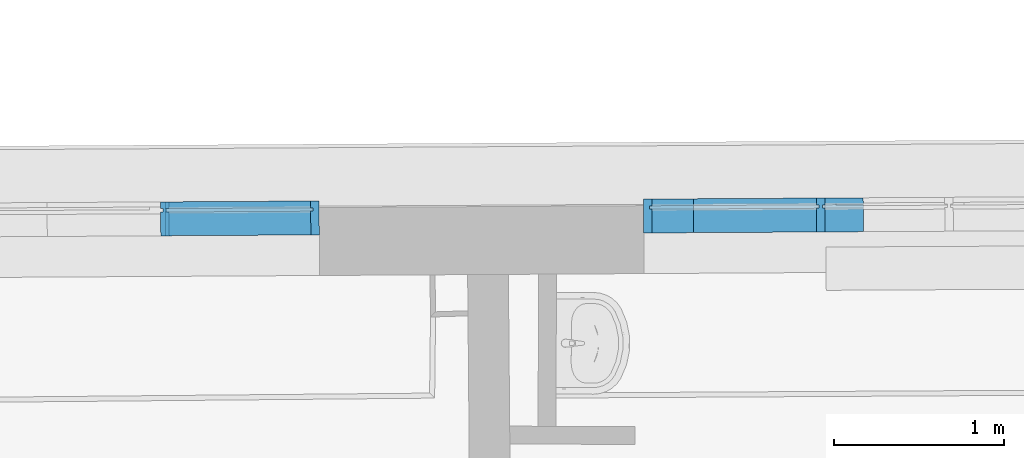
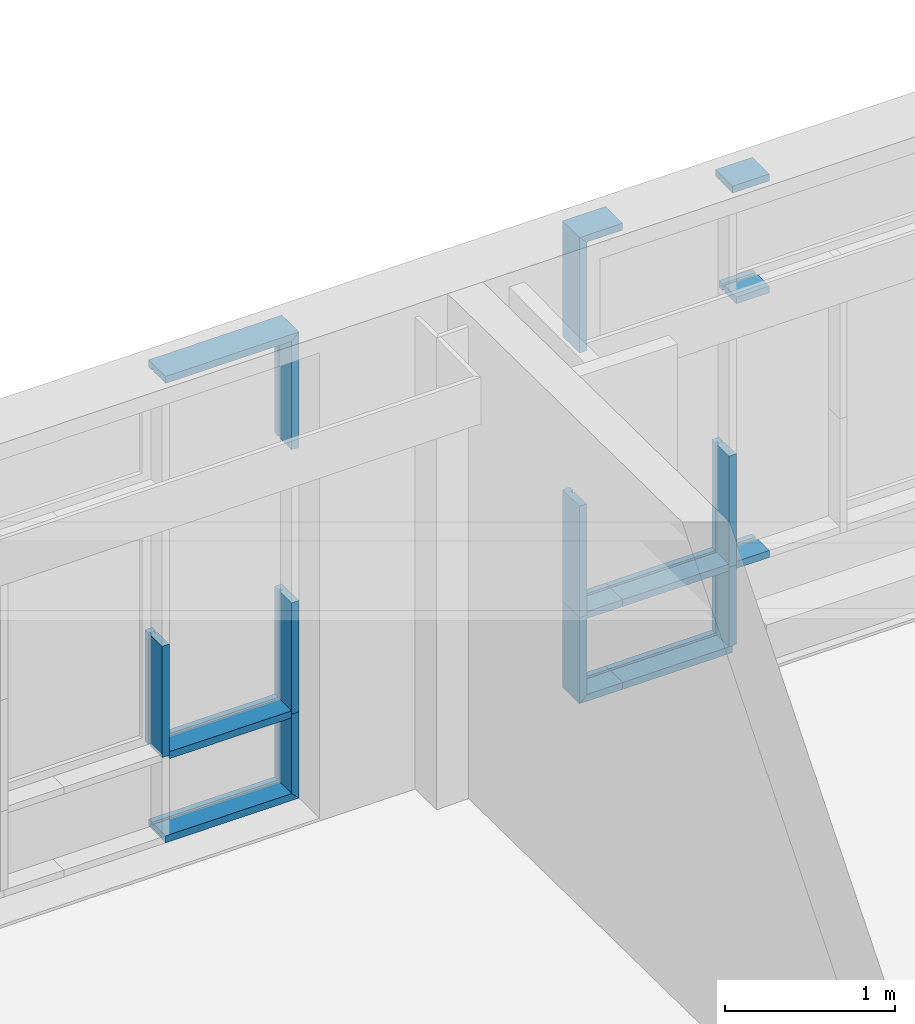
# One storey, part 128 of 158: 20 building element parts, 2 elements without a shape of their own.
"""IFC2X3 building model written with IfcOpenShell, lengths in metres."""

from ifc_helpers import new_model, entity, si_unit, converted_unit, derived_unit, money_unit, direction, frame, origin_with_axes, place, context, subcontext, project, spatial, faceted_brep, material, type_object, element, aggregate, save


model = new_model("IFC2X3")

# Units and contexts
model_context = context("Model", 3, precision=1e-05, world=origin_with_axes(), true_north=direction((0.0, 1.0)))
body_context = subcontext(model_context, "Body", "Model", "MODEL_VIEW")
ifc_project = project(units=[si_unit("LENGTHUNIT", "METRE"), si_unit("AREAUNIT", "SQUARE_METRE"), si_unit("VOLUMEUNIT", "CUBIC_METRE"), converted_unit("PLANEANGLEUNIT", "DEGREE", entity("IfcPlaneAngleMeasure", 0.0174532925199), si_unit("PLANEANGLEUNIT", "RADIAN"), dimensions=[0, 0, 0, 0, 0, 0, 0]), money_unit("EUR"), converted_unit("TIMEUNIT", "Year", entity("IfcTimeMeasure", 31556926.0), si_unit("TIMEUNIT", "SECOND"), dimensions=[0, 0, 1, 0, 0, 0, 0]), si_unit("MASSUNIT", "GRAM", prefix="KILO"), si_unit("THERMODYNAMICTEMPERATUREUNIT", "DEGREE_CELSIUS"), si_unit("LUMINOUSINTENSITYUNIT", "LUMEN"), si_unit("ENERGYUNIT", "JOULE", prefix="MEGA"), derived_unit("THERMALCONDUCTANCEUNIT", [(si_unit("POWERUNIT", "WATT"), 1), (si_unit("LENGTHUNIT", "METRE"), -1), (si_unit("THERMODYNAMICTEMPERATUREUNIT", "KELVIN"), -1)]), derived_unit("SPECIFICHEATCAPACITYUNIT", [(si_unit("ENERGYUNIT", "JOULE"), 1), (si_unit("MASSUNIT", "GRAM", prefix="KILO"), -1), (si_unit("THERMODYNAMICTEMPERATUREUNIT", "KELVIN"), -1)]), derived_unit("MASSDENSITYUNIT", [(si_unit("MASSUNIT", "GRAM", prefix="KILO"), 1), (si_unit("VOLUMEUNIT", "CUBIC_METRE"), -1)])], contexts=[model_context])

# Site, building, storey
site_placement = place(None, origin_with_axes())
site = spatial("IfcSite", under=ifc_project, at=site_placement, Name="Gelände", CompositionType="ELEMENT")
building_placement = place(site_placement, origin_with_axes())
building = spatial("IfcBuilding", under=site, at=building_placement, Name="Gebäude", CompositionType="ELEMENT")
storey_placement = place(building_placement, origin_with_axes())
storey = spatial("IfcBuildingStorey", under=building, at=storey_placement, Name="ERDGESCHOSS", CompositionType="ELEMENT", Elevation=0.0)

# Proxy, building element parts
building_element_proxy_type = type_object("IfcBuildingElementProxyType", Name="Fassadentyp", PredefinedType="NOTDEFINED")
proxy_1_placement = place(storey_placement, frame((-22.8016333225, 53.9701805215, 1.34043904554), z_axis=(0.0, 0.0, 1.0), x_axis=(1.0, 0.0, 0.0)))
proxy_1 = element("IfcBuildingElementProxy", 1, at=proxy_1_placement, inside=storey, type_object=building_element_proxy_type, Name="Fassade-002")
ifc_material = material(Name="53_Metall, Aluminium")
building_element_part_1_placement = place(proxy_1_placement, origin_with_axes())
building_element_part_1 = element("IfcBuildingElementPart", 2, at=building_element_part_1_placement, material=ifc_material, Name="53_Metall, Aluminium", context=body_context, shape_type="Brep", body=[
    faceted_brep([(-2.15533489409, -0.0225694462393, 0.620000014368), (-2.17033463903, -0.0226569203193, 0.620000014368), (-2.16951821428, -0.162654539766, 0.620000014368), (-2.11951906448, -0.162362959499, 0.620000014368), (-2.12033548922, -0.0223653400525, 0.620000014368), (-2.13533523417, -0.0224528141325, 0.620000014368), (-2.13545186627, -0.00245315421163, 0.620000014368), (-2.12045212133, -0.00236568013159, 0.620000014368), (-2.12068538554, 0.0376336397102, 0.620000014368), (-2.17068453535, 0.0373420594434, 0.620000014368), (-2.17045127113, -0.00265726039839, 0.620000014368), (-2.15545152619, -0.00256978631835, 0.620000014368), (-2.15533489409, -0.0225694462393, 0.0499999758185), (-2.17033463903, -0.0226569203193, 0.0499999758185), (-2.16951821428, -0.162654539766, 0.0499999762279), (-2.11951906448, -0.162362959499, 0.0499999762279), (-2.12033548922, -0.0223653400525, 0.0499999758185), (-2.13533523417, -0.0224528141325, 0.0499999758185), (-2.13545186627, -0.00245315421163, 0.04999997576), (-2.12045212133, -0.00236568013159, 0.04999997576), (-2.12068538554, 0.0376336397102, 0.0499999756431), (-2.17068453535, 0.0373420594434, 0.0499999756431), (-2.17045127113, -0.00265726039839, 0.04999997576), (-2.15545152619, -0.00256978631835, 0.04999997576)], [[[0, 1, 2, 3, 4, 5, 6, 7, 8, 9, 10, 11]], [[1, 0, 12, 13]], [[1, 13, 14, 2]], [[2, 14, 15, 3]], [[4, 3, 15, 16]], [[4, 16, 17, 5]], [[5, 17, 18, 6]], [[7, 6, 18, 19]], [[19, 20, 8, 7]], [[8, 20, 21, 9]], [[22, 10, 9, 21]], [[11, 10, 22, 23]], [[0, 11, 23, 12]], [[23, 22, 21, 20, 19, 18, 17, 16, 15, 14, 13, 12]]]),
])
building_element_part_2_placement = place(proxy_1_placement, origin_with_axes())
building_element_part_2 = element("IfcBuildingElementPart", 3, at=building_element_part_2_placement, material=ifc_material, Name="53_Metall, Aluminium", context=body_context, shape_type="Brep", body=[
    faceted_brep([(-2.12033547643, -0.0223653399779, 0.610000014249), (-2.12033547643, -0.0223653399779, 0.595000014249), (-2.11951904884, -0.162362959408, 0.595000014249), (-2.11951904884, -0.162362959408, 0.645000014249), (-2.12033547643, -0.0223653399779, 0.645000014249), (-2.12033547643, -0.0223653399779, 0.630000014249), (-2.12045210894, -0.00236568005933, 0.630000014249), (-2.12045210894, -0.00236568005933, 0.645000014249), (-2.12068537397, 0.0376336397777, 0.645000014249), (-2.12068537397, 0.0376336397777, 0.595000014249), (-2.12045210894, -0.00236568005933, 0.595000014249), (-2.12045210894, -0.00236568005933, 0.610000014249), (-1.89498624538, -0.0210511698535, 0.610000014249), (-1.89498624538, -0.0210511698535, 0.595000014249), (-1.89416982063, -0.1610487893, 0.595000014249), (-1.89416982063, -0.1610487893, 0.645000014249), (-1.89498624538, -0.0210511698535, 0.645000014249), (-1.89498624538, -0.0210511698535, 0.630000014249), (-1.89510287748, -0.00105150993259, 0.630000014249), (-1.89510287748, -0.00105150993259, 0.645000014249), (-1.8953361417, 0.0389478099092, 0.645000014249), (-1.8953361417, 0.0389478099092, 0.595000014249), (-1.89510287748, -0.00105150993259, 0.595000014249), (-1.89510287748, -0.00105150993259, 0.610000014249)], [[[0, 1, 2, 3, 4, 5, 6, 7, 8, 9, 10, 11]], [[1, 0, 12, 13]], [[1, 13, 14, 2]], [[3, 2, 14, 15]], [[4, 3, 15, 16]], [[4, 16, 17, 5]], [[5, 17, 18, 6]], [[7, 6, 18, 19]], [[19, 20, 8, 7]], [[9, 8, 20, 21]], [[22, 10, 9, 21]], [[11, 10, 22, 23]], [[0, 11, 23, 12]], [[23, 22, 21, 20, 19, 18, 17, 16, 15, 14, 13, 12]]]),
])
building_element_part_3_placement = place(proxy_1_placement, origin_with_axes())
building_element_part_3 = element("IfcBuildingElementPart", 4, at=building_element_part_3_placement, material=ifc_material, Name="53_Metall, Aluminium", context=body_context, shape_type="Brep", body=[
    faceted_brep([(-2.89496924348, -0.0268827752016, 0.0349999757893), (-2.89508587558, -0.00688311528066, 0.0349999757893), (-2.89508587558, -0.00688311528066, 0.0499999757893), (-2.8953191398, 0.0331162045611, 0.0499999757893), (-2.8953191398, 0.0331162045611, -2.42107287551e-08), (-2.89415281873, -0.166880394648, -2.42107287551e-08), (-2.89415281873, -0.166880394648, 0.0499999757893), (-2.89496924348, -0.0268827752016, 0.0499999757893), (-2.14533506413, -0.0225111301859, 0.0349999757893), (-2.14545169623, -0.00251147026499, 0.0349999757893), (-2.14545169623, -0.00251147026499, 0.0499999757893), (-2.14568496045, 0.0374878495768, 0.0499999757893), (-2.14568496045, 0.0374878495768, -2.42107287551e-08), (-2.14451863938, -0.162508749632, -2.42107287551e-08), (-2.14451863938, -0.162508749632, 0.0499999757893), (-2.14533506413, -0.0225111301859, 0.0499999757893)], [[[0, 1, 2, 3, 4, 5, 6, 7]], [[1, 0, 8, 9]], [[10, 2, 1, 9]], [[2, 10, 11, 3]], [[12, 4, 3, 11]], [[13, 5, 4, 12]], [[14, 6, 5, 13]], [[15, 7, 6, 14]], [[0, 7, 15, 8]], [[8, 15, 14, 13, 12, 11, 10, 9]]]),
])
building_element_part_4_placement = place(proxy_1_placement, origin_with_axes())
building_element_part_4 = element("IfcBuildingElementPart", 5, at=building_element_part_4_placement, material=ifc_material, Name="53_Metall, Aluminium", context=body_context, shape_type="Brep", body=[
    faceted_brep([(-3.15481999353, -0.0283981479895, 0.620000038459), (-3.15493662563, -0.00839848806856, 0.620000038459), (-3.13993688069, -0.00831101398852, 0.620000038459), (-3.14017014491, 0.0316883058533, 0.620000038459), (-3.19016929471, 0.0313967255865, 0.620000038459), (-3.18900297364, -0.168599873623, 0.620000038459), (-3.13900382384, -0.168308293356, 0.620000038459), (-3.13982024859, -0.0283106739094, 0.620000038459), (-3.15481999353, -0.0283981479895, 0.035), (-3.15493662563, -0.00839848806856, 0.035), (-3.13993688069, -0.00831101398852, 0.05), (-3.14017014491, 0.0316883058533, 0.05), (-3.19016929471, 0.0313967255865, 0.0), (-3.18900297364, -0.168599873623, 0.0), (-3.13900382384, -0.168308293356, 0.05), (-3.13982024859, -0.0283106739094, 0.05)], [[[0, 1, 2, 3, 4, 5, 6, 7]], [[1, 0, 8, 9]], [[10, 2, 1, 9]], [[2, 10, 11, 3]], [[4, 3, 11, 12]], [[5, 4, 12, 13]], [[6, 5, 13, 14]], [[15, 7, 6, 14]], [[0, 7, 15, 8]], [[8, 15, 14, 13, 12, 11, 10, 9]]]),
])
building_element_part_5_placement = place(proxy_1_placement, origin_with_axes())
building_element_part_5 = element("IfcBuildingElementPart", 6, at=building_element_part_5_placement, material=ifc_material, Name="53_Metall, Aluminium", context=body_context, shape_type="Brep", body=[
    faceted_brep([(-3.15481999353, -0.0283981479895, 3.31499988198), (-3.13982024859, -0.0283106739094, 3.29999988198), (-3.13900382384, -0.168308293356, 3.29999988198), (-3.18900297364, -0.168599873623, 3.34999988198), (-3.19016929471, 0.0313967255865, 3.34999988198), (-3.14017014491, 0.0316883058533, 3.29999988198), (-3.13993688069, -0.00831101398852, 3.29999988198), (-3.15493662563, -0.00839848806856, 3.31499988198), (-2.89496924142, -0.0268827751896, 3.31499988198), (-2.89496924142, -0.0268827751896, 3.29999988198), (-2.89415281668, -0.166880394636, 3.29999988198), (-2.89415281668, -0.166880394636, 3.34999988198), (-2.89531913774, 0.0331162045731, 3.34999988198), (-2.89531913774, 0.0331162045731, 3.29999988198), (-2.89508587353, -0.00688311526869, 3.29999988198), (-2.89508587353, -0.00688311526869, 3.31499988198)], [[[0, 1, 2, 3, 4, 5, 6, 7]], [[0, 8, 9, 1]], [[9, 10, 2, 1]], [[10, 11, 3, 2]], [[11, 12, 4, 3]], [[12, 13, 5, 4]], [[6, 5, 13, 14]], [[14, 15, 7, 6]], [[7, 15, 8, 0]], [[8, 15, 14, 13, 12, 11, 10, 9]]]),
])
building_element_part_6_placement = place(proxy_1_placement, origin_with_axes())
building_element_part_6 = element("IfcBuildingElementPart", 7, at=building_element_part_6_placement, material=ifc_material, Name="53_Metall, Aluminium", context=body_context, shape_type="Brep", body=[
    faceted_brep([(-2.15533488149, -0.0225694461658, 1.4200000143), (-2.17033462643, -0.0226569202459, 1.4200000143), (-2.16951820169, -0.162654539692, 1.4200000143), (-2.11951905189, -0.162362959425, 1.4200000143), (-2.12033547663, -0.0223653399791, 1.4200000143), (-2.13533522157, -0.0224528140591, 1.4200000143), (-2.13545185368, -0.00245315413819, 1.4200000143), (-2.12045210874, -0.00236568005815, 1.4200000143), (-2.12068537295, 0.0376336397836, 1.4200000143), (-2.17068452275, 0.0373420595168, 1.4200000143), (-2.17045125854, -0.00265726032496, 1.4200000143), (-2.1554515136, -0.00256978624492, 1.4200000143), (-2.15533488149, -0.0225694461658, 0.620000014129), (-2.17033462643, -0.0226569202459, 0.620000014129), (-2.16951820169, -0.162654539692, 0.620000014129), (-2.11951905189, -0.162362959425, 0.620000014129), (-2.12033547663, -0.0223653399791, 0.620000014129), (-2.13533522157, -0.0224528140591, 0.620000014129), (-2.13545185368, -0.00245315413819, 0.620000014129), (-2.12045210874, -0.00236568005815, 0.620000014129), (-2.12068537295, 0.0376336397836, 0.620000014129), (-2.17068452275, 0.0373420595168, 0.620000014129), (-2.17045125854, -0.00265726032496, 0.620000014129), (-2.1554515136, -0.00256978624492, 0.620000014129)], [[[0, 1, 2, 3, 4, 5, 6, 7, 8, 9, 10, 11]], [[1, 0, 12, 13]], [[1, 13, 14, 2]], [[3, 2, 14, 15]], [[4, 3, 15, 16]], [[4, 16, 17, 5]], [[5, 17, 18, 6]], [[7, 6, 18, 19]], [[19, 20, 8, 7]], [[9, 8, 20, 21]], [[22, 10, 9, 21]], [[11, 10, 22, 23]], [[0, 11, 23, 12]], [[23, 22, 21, 20, 19, 18, 17, 16, 15, 14, 13, 12]]]),
])
building_element_part_7_placement = place(proxy_1_placement, origin_with_axes())
building_element_part_7 = element("IfcBuildingElementPart", 8, at=building_element_part_7_placement, material=ifc_material, Name="53_Metall, Aluminium", context=body_context, shape_type="Brep", body=[
    faceted_brep([(-2.89496924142, -0.0268827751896, 0.610000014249), (-2.89496924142, -0.0268827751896, 0.595000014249), (-2.89415281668, -0.166880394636, 0.595000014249), (-2.89415281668, -0.166880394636, 0.645000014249), (-2.89496924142, -0.0268827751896, 0.645000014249), (-2.89496924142, -0.0268827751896, 0.630000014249), (-2.89508587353, -0.00688311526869, 0.630000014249), (-2.89508587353, -0.00688311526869, 0.645000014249), (-2.89531913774, 0.0331162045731, 0.645000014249), (-2.89531913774, 0.0331162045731, 0.595000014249), (-2.89508587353, -0.00688311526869, 0.595000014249), (-2.89508587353, -0.00688311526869, 0.610000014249), (-2.1703346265, -0.0226569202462, 0.610000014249), (-2.1703346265, -0.0226569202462, 0.595000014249), (-2.16951820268, -0.162654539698, 0.595000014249), (-2.16951820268, -0.162654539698, 0.645000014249), (-2.1703346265, -0.0226569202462, 0.645000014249), (-2.1703346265, -0.0226569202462, 0.630000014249), (-2.17045125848, -0.00265726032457, 0.630000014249), (-2.17045125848, -0.00265726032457, 0.645000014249), (-2.17068452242, 0.0373420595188, 0.645000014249), (-2.17068452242, 0.0373420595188, 0.595000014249), (-2.17045125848, -0.00265726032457, 0.595000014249), (-2.17045125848, -0.00265726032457, 0.610000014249)], [[[0, 1, 2, 3, 4, 5, 6, 7, 8, 9, 10, 11]], [[1, 0, 12, 13]], [[1, 13, 14, 2]], [[2, 14, 15, 3]], [[4, 3, 15, 16]], [[4, 16, 17, 5]], [[5, 17, 18, 6]], [[7, 6, 18, 19]], [[19, 20, 8, 7]], [[8, 20, 21, 9]], [[22, 10, 9, 21]], [[11, 10, 22, 23]], [[0, 11, 23, 12]], [[23, 22, 21, 20, 19, 18, 17, 16, 15, 14, 13, 12]]]),
])
building_element_part_8_placement = place(proxy_1_placement, origin_with_axes())
building_element_part_8 = element("IfcBuildingElementPart", 9, at=building_element_part_8_placement, material=ifc_material, Name="53_Metall, Aluminium", context=body_context, shape_type="Brep", body=[
    faceted_brep([(-3.13982024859, -0.0283106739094, 0.610000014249), (-3.13982024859, -0.0283106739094, 0.595000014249), (-3.13900382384, -0.168308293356, 0.595000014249), (-3.13900382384, -0.168308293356, 0.645000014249), (-3.13982024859, -0.0283106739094, 0.645000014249), (-3.13982024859, -0.0283106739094, 0.630000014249), (-3.13993688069, -0.00831101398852, 0.630000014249), (-3.13993688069, -0.00831101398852, 0.645000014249), (-3.14017014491, 0.0316883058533, 0.645000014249), (-3.14017014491, 0.0316883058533, 0.595000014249), (-3.13993688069, -0.00831101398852, 0.595000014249), (-3.13993688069, -0.00831101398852, 0.610000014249), (-2.89496924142, -0.0268827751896, 0.610000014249), (-2.89496924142, -0.0268827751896, 0.595000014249), (-2.89415281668, -0.166880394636, 0.595000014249), (-2.89415281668, -0.166880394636, 0.645000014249), (-2.89496924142, -0.0268827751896, 0.645000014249), (-2.89496924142, -0.0268827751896, 0.630000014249), (-2.89508587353, -0.00688311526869, 0.630000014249), (-2.89508587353, -0.00688311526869, 0.645000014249), (-2.89531913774, 0.0331162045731, 0.645000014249), (-2.89531913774, 0.0331162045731, 0.595000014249), (-2.89508587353, -0.00688311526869, 0.595000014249), (-2.89508587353, -0.00688311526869, 0.610000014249)], [[[0, 1, 2, 3, 4, 5, 6, 7, 8, 9, 10, 11]], [[1, 0, 12, 13]], [[1, 13, 14, 2]], [[3, 2, 14, 15]], [[4, 3, 15, 16]], [[4, 16, 17, 5]], [[5, 17, 18, 6]], [[7, 6, 18, 19]], [[19, 20, 8, 7]], [[9, 8, 20, 21]], [[22, 10, 9, 21]], [[11, 10, 22, 23]], [[0, 11, 23, 12]], [[23, 22, 21, 20, 19, 18, 17, 16, 15, 14, 13, 12]]]),
])
building_element_part_9_placement = place(proxy_1_placement, origin_with_axes())
building_element_part_9 = element("IfcBuildingElementPart", 10, at=building_element_part_9_placement, material=ifc_material, Name="53_Metall, Aluminium", context=body_context, shape_type="Brep", body=[
    faceted_brep([(-2.14533506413, -0.0225111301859, 3.31499988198), (-2.14533506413, -0.0225111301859, 3.29999988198), (-2.14451863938, -0.162508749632, 3.29999988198), (-2.14451863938, -0.162508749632, 3.34999988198), (-2.14568496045, 0.0374878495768, 3.34999988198), (-2.14568496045, 0.0374878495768, 3.29999988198), (-2.14545169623, -0.00251147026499, 3.29999988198), (-2.14545169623, -0.00251147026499, 3.31499988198), (-1.89498624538, -0.0210511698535, 3.31499988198), (-1.89498624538, -0.0210511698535, 3.29999988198), (-1.89416982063, -0.1610487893, 3.29999988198), (-1.89416982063, -0.1610487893, 3.34999988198), (-1.8953361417, 0.0389478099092, 3.34999988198), (-1.8953361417, 0.0389478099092, 3.29999988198), (-1.89510287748, -0.00105150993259, 3.29999988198), (-1.89510287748, -0.00105150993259, 3.31499988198)], [[[0, 1, 2, 3, 4, 5, 6, 7]], [[0, 8, 9, 1]], [[9, 10, 2, 1]], [[10, 11, 3, 2]], [[11, 12, 4, 3]], [[12, 13, 5, 4]], [[6, 5, 13, 14]], [[14, 15, 7, 6]], [[7, 15, 8, 0]], [[8, 15, 14, 13, 12, 11, 10, 9]]]),
])
building_element_part_10_placement = place(proxy_1_placement, origin_with_axes())
building_element_part_10 = element("IfcBuildingElementPart", 11, at=building_element_part_10_placement, material=ifc_material, Name="53_Metall, Aluminium", context=body_context, shape_type="Brep", body=[
    faceted_brep([(-3.15481999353, -0.0283981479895, 3.31499992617), (-3.15493662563, -0.00839848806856, 3.31499992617), (-3.13993688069, -0.00831101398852, 3.29999992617), (-3.14017014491, 0.0316883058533, 3.29999992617), (-3.19016929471, 0.0313967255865, 3.34999992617), (-3.18900297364, -0.168599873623, 3.34999992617), (-3.13900382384, -0.168308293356, 3.29999992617), (-3.13982024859, -0.0283106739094, 3.29999992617), (-3.15481999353, -0.0283981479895, 2.52000001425), (-3.15493662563, -0.00839848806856, 2.52000001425), (-3.13993688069, -0.00831101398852, 2.52000001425), (-3.14017014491, 0.0316883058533, 2.52000001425), (-3.19016929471, 0.0313967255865, 2.52000001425), (-3.18900297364, -0.168599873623, 2.52000001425), (-3.13900382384, -0.168308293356, 2.52000001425), (-3.13982024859, -0.0283106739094, 2.52000001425)], [[[0, 1, 2, 3, 4, 5, 6, 7]], [[1, 0, 8, 9]], [[10, 2, 1, 9]], [[2, 10, 11, 3]], [[12, 4, 3, 11]], [[13, 5, 4, 12]], [[14, 6, 5, 13]], [[15, 7, 6, 14]], [[0, 7, 15, 8]], [[8, 15, 14, 13, 12, 11, 10, 9]]]),
])
building_element_part_11_placement = place(proxy_1_placement, origin_with_axes())
building_element_part_11 = element("IfcBuildingElementPart", 12, at=building_element_part_11_placement, material=ifc_material, Name="53_Metall, Aluminium", context=body_context, shape_type="Brep", body=[
    faceted_brep([(-2.12033547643, -0.0223653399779, 2.51000001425), (-2.12033547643, -0.0223653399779, 2.49500001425), (-2.11951904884, -0.162362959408, 2.49500001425), (-2.11951904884, -0.162362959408, 2.54500001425), (-2.12033547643, -0.0223653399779, 2.54500001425), (-2.12033547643, -0.0223653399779, 2.53000001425), (-2.12045210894, -0.00236568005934, 2.53000001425), (-2.12045210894, -0.00236568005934, 2.54500001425), (-2.12068537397, 0.0376336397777, 2.54500001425), (-2.12068537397, 0.0376336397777, 2.49500001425), (-2.12045210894, -0.00236568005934, 2.49500001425), (-2.12045210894, -0.00236568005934, 2.51000001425), (-1.89498624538, -0.0210511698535, 2.51000001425), (-1.89498624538, -0.0210511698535, 2.49500001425), (-1.89416982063, -0.1610487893, 2.49500001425), (-1.89416982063, -0.1610487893, 2.54500001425), (-1.89498624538, -0.0210511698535, 2.54500001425), (-1.89498624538, -0.0210511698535, 2.53000001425), (-1.89510287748, -0.00105150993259, 2.53000001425), (-1.89510287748, -0.00105150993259, 2.54500001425), (-1.8953361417, 0.0389478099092, 2.54500001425), (-1.8953361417, 0.0389478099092, 2.49500001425), (-1.89510287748, -0.00105150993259, 2.49500001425), (-1.89510287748, -0.00105150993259, 2.51000001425)], [[[0, 1, 2, 3, 4, 5, 6, 7, 8, 9, 10, 11]], [[1, 0, 12, 13]], [[1, 13, 14, 2]], [[3, 2, 14, 15]], [[4, 3, 15, 16]], [[4, 16, 17, 5]], [[5, 17, 18, 6]], [[7, 6, 18, 19]], [[19, 20, 8, 7]], [[9, 8, 20, 21]], [[22, 10, 9, 21]], [[11, 10, 22, 23]], [[0, 11, 23, 12]], [[23, 22, 21, 20, 19, 18, 17, 16, 15, 14, 13, 12]]]),
])
building_element_part_12_placement = place(proxy_1_placement, origin_with_axes())
building_element_part_12 = element("IfcBuildingElementPart", 13, at=building_element_part_12_placement, material=ifc_material, Name="53_Metall, Aluminium", context=body_context, shape_type="Brep", body=[
    faceted_brep([(-3.1548199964, -0.0283981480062, 0.0349999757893), (-3.15493662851, -0.00839848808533, 0.0349999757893), (-3.1399368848, -0.00831101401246, 0.0499999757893), (-3.14017014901, 0.0316883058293, 0.0499999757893), (-3.19016929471, 0.0313967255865, -2.42107287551e-08), (-3.18900297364, -0.168599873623, -2.42107287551e-08), (-3.13900382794, -0.16830829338, 0.0499999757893), (-3.13982025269, -0.0283106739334, 0.0499999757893), (-2.89496923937, -0.0268827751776, 0.0349999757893), (-2.89508587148, -0.00688311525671, 0.0349999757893), (-2.89508587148, -0.00688311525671, 0.0499999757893), (-2.89531913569, 0.0331162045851, 0.0499999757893), (-2.89531913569, 0.0331162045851, -2.42107287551e-08), (-2.89415281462, -0.166880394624, -2.42107287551e-08), (-2.89415281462, -0.166880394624, 0.0499999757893), (-2.89496923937, -0.0268827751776, 0.0499999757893)], [[[0, 1, 2, 3, 4, 5, 6, 7]], [[1, 0, 8, 9]], [[10, 2, 1, 9]], [[2, 10, 11, 3]], [[12, 4, 3, 11]], [[13, 5, 4, 12]], [[14, 6, 5, 13]], [[15, 7, 6, 14]], [[0, 7, 15, 8]], [[8, 15, 14, 13, 12, 11, 10, 9]]]),
])
building_element_part_13_placement = place(proxy_1_placement, origin_with_axes())
building_element_part_13 = element("IfcBuildingElementPart", 14, at=building_element_part_13_placement, material=ifc_material, Name="53_Metall, Aluminium", context=body_context, shape_type="Brep", body=[
    faceted_brep([(-3.15481999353, -0.0283981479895, 1.42000001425), (-3.15493662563, -0.00839848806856, 1.42000001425), (-3.13993688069, -0.00831101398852, 1.42000001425), (-3.14017014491, 0.0316883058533, 1.42000001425), (-3.19016929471, 0.0313967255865, 1.42000001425), (-3.18900297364, -0.168599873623, 1.42000001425), (-3.13900382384, -0.168308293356, 1.42000001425), (-3.13982024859, -0.0283106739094, 1.42000001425), (-3.15481999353, -0.0283981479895, 0.620000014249), (-3.15493662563, -0.00839848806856, 0.620000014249), (-3.13993688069, -0.00831101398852, 0.620000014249), (-3.14017014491, 0.0316883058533, 0.620000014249), (-3.19016929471, 0.0313967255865, 0.620000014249), (-3.18900297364, -0.168599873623, 0.620000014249), (-3.13900382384, -0.168308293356, 0.620000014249), (-3.13982024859, -0.0283106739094, 0.620000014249)], [[[0, 1, 2, 3, 4, 5, 6, 7]], [[1, 0, 8, 9]], [[10, 2, 1, 9]], [[2, 10, 11, 3]], [[12, 4, 3, 11]], [[13, 5, 4, 12]], [[14, 6, 5, 13]], [[15, 7, 6, 14]], [[0, 7, 15, 8]], [[8, 15, 14, 13, 12, 11, 10, 9]]]),
])
aggregate(proxy_1, [building_element_part_1, building_element_part_2, building_element_part_3, building_element_part_4, building_element_part_5, building_element_part_6, building_element_part_7, building_element_part_8, building_element_part_9, building_element_part_10, building_element_part_11, building_element_part_12, building_element_part_13])

proxy_2_placement = place(storey_placement, frame((-29.8344261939, 53.9291673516, 1.34043902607), z_axis=(0.0, 0.0, 1.0), x_axis=(1.0, 0.0, 0.0)))
proxy_2 = element("IfcBuildingElementProxy", 15, at=proxy_2_placement, inside=storey, type_object=building_element_proxy_type, Name="Fassade-002")
building_element_part_14_placement = place(proxy_2_placement, origin_with_axes())
building_element_part_14 = element("IfcBuildingElementPart", 16, at=building_element_part_14_placement, material=ifc_material, Name="53_Metall, Aluminium", context=body_context, shape_type="Brep", body=[
    faceted_brep([(1.89610036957, 0.00105732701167, 3.31499994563), (1.88110062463, 0.000969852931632, 3.29999994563), (1.88191704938, -0.139027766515, 3.29999994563), (1.93191619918, -0.138736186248, 3.34999994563), (1.93074987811, 0.0612604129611, 3.34999994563), (1.88075072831, 0.0609688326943, 3.29999994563), (1.88098399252, 0.0209695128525, 3.29999994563), (1.89598373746, 0.0210569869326, 3.31499994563), (1.89610036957, 0.00105732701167, 2.52000003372), (1.88110062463, 0.000969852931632, 2.52000003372), (1.88191704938, -0.139027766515, 2.52000003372), (1.93191619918, -0.138736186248, 2.52000003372), (1.93074987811, 0.0612604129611, 2.52000003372), (1.88075072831, 0.0609688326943, 2.52000003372), (1.88098399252, 0.0209695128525, 2.52000003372), (1.89598373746, 0.0210569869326, 2.52000003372)], [[[0, 1, 2, 3, 4, 5, 6, 7]], [[0, 8, 9, 1]], [[9, 10, 2, 1]], [[10, 11, 3, 2]], [[11, 12, 4, 3]], [[12, 13, 5, 4]], [[6, 5, 13, 14]], [[14, 15, 7, 6]], [[7, 15, 8, 0]], [[8, 15, 14, 13, 12, 11, 10, 9]]]),
])
building_element_part_15_placement = place(proxy_2_placement, origin_with_axes())
building_element_part_15 = element("IfcBuildingElementPart", 17, at=building_element_part_15_placement, material=ifc_material, Name="53_Metall, Aluminium", context=body_context, shape_type="Brep", body=[
    faceted_brep([(1.89610036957, 0.00105732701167, 1.42000003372), (1.88110062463, 0.000969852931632, 1.42000003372), (1.88191704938, -0.139027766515, 1.42000003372), (1.93191619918, -0.138736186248, 1.42000003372), (1.93074987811, 0.0612604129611, 1.42000003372), (1.88075072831, 0.0609688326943, 1.42000003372), (1.88098399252, 0.0209695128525, 1.42000003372), (1.89598373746, 0.0210569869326, 1.42000003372), (1.89610036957, 0.00105732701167, 0.620000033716), (1.88110062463, 0.000969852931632, 0.620000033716), (1.88191704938, -0.139027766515, 0.620000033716), (1.93191619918, -0.138736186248, 0.620000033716), (1.93074987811, 0.0612604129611, 0.620000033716), (1.88075072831, 0.0609688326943, 0.620000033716), (1.88098399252, 0.0209695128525, 0.620000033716), (1.89598373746, 0.0210569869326, 0.620000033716)], [[[0, 1, 2, 3, 4, 5, 6, 7]], [[0, 8, 9, 1]], [[9, 10, 2, 1]], [[10, 11, 3, 2]], [[11, 12, 4, 3]], [[12, 13, 5, 4]], [[6, 5, 13, 14]], [[14, 15, 7, 6]], [[7, 15, 8, 0]], [[8, 15, 14, 13, 12, 11, 10, 9]]]),
])
building_element_part_16_placement = place(proxy_2_placement, origin_with_axes())
building_element_part_16 = element("IfcBuildingElementPart", 18, at=building_element_part_16_placement, material=ifc_material, Name="53_Metall, Aluminium", context=body_context, shape_type="Brep", body=[
    faceted_brep([(1.02181225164, -0.00404126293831, 0.035), (1.02169561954, 0.0159583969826, 0.035), (1.02169561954, 0.0159583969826, 0.05), (1.02146235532, 0.0559577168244, 0.05), (1.02146235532, 0.0559577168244, 0.0), (1.02262867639, -0.144038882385, 0.0), (1.02262867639, -0.144038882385, 0.05), (1.02181225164, -0.00404126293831, 0.05), (1.89610036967, 0.00105732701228, 0.035), (1.89598373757, 0.0210569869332, 0.035), (1.88098399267, 0.0209695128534, 0.05), (1.88075072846, 0.0609688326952, 0.05), (1.93074987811, 0.0612604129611, 0.0), (1.93191619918, -0.138736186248, 0.0), (1.88191704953, -0.139027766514, 0.05), (1.88110062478, 0.000969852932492, 0.05)], [[[0, 1, 2, 3, 4, 5, 6, 7]], [[1, 0, 8, 9]], [[10, 2, 1, 9]], [[2, 10, 11, 3]], [[4, 3, 11, 12]], [[5, 4, 12, 13]], [[6, 5, 13, 14]], [[15, 7, 6, 14]], [[0, 7, 15, 8]], [[8, 15, 14, 13, 12, 11, 10, 9]]]),
])
building_element_part_17_placement = place(proxy_2_placement, origin_with_axes())
building_element_part_17 = element("IfcBuildingElementPart", 19, at=building_element_part_17_placement, material=ifc_material, Name="53_Metall, Aluminium", context=body_context, shape_type="Brep", body=[
    faceted_brep([(1.89610036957, 0.00105732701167, 0.620000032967), (1.88110062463, 0.000969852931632, 0.620000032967), (1.88191704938, -0.139027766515, 0.620000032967), (1.93191619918, -0.138736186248, 0.620000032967), (1.93074987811, 0.0612604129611, 0.620000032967), (1.88075072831, 0.0609688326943, 0.620000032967), (1.88098399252, 0.0209695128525, 0.620000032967), (1.89598373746, 0.0210569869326, 0.620000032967), (1.89610036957, 0.00105732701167, 0.0349999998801), (1.88110062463, 0.000969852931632, 0.0499999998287), (1.88191704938, -0.139027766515, 0.0499999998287), (1.93191619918, -0.138736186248, 0.0), (1.93074987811, 0.0612604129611, 0.0), (1.88075072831, 0.0609688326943, 0.0499999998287), (1.88098399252, 0.0209695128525, 0.0499999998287), (1.89598373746, 0.0210569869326, 0.0349999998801)], [[[0, 1, 2, 3, 4, 5, 6, 7]], [[0, 8, 9, 1]], [[9, 10, 2, 1]], [[2, 10, 11, 3]], [[3, 11, 12, 4]], [[4, 12, 13, 5]], [[6, 5, 13, 14]], [[14, 15, 7, 6]], [[7, 15, 8, 0]], [[8, 15, 14, 13, 12, 11, 10, 9]]]),
])
building_element_part_18_placement = place(proxy_2_placement, origin_with_axes())
building_element_part_18 = element("IfcBuildingElementPart", 20, at=building_element_part_18_placement, material=ifc_material, Name="53_Metall, Aluminium", context=body_context, shape_type="Brep", body=[
    faceted_brep([(1.04681183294, -0.00389547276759, 0.610000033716), (1.04681183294, -0.00389547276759, 0.595000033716), (1.04762825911, -0.143893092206, 0.595000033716), (1.04762825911, -0.143893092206, 0.645000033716), (1.04681183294, -0.00389547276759, 0.645000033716), (1.04681183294, -0.00389547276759, 0.630000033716), (1.04669520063, 0.0161041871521, 0.630000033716), (1.04669520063, 0.0161041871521, 0.645000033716), (1.04646193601, 0.0561035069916, 0.645000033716), (1.04646193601, 0.0561035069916, 0.595000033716), (1.04669520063, 0.0161041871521, 0.595000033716), (1.04669520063, 0.0161041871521, 0.610000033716), (1.88110062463, 0.000969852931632, 0.610000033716), (1.88110062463, 0.000969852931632, 0.595000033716), (1.88191704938, -0.139027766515, 0.595000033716), (1.88191704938, -0.139027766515, 0.645000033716), (1.88110062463, 0.000969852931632, 0.645000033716), (1.88110062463, 0.000969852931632, 0.630000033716), (1.88098399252, 0.0209695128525, 0.630000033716), (1.88098399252, 0.0209695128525, 0.645000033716), (1.88075072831, 0.0609688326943, 0.645000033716), (1.88075072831, 0.0609688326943, 0.595000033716), (1.88098399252, 0.0209695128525, 0.595000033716), (1.88098399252, 0.0209695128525, 0.610000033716)], [[[0, 1, 2, 3, 4, 5, 6, 7, 8, 9, 10, 11]], [[1, 0, 12, 13]], [[1, 13, 14, 2]], [[2, 14, 15, 3]], [[4, 3, 15, 16]], [[4, 16, 17, 5]], [[5, 17, 18, 6]], [[7, 6, 18, 19]], [[19, 20, 8, 7]], [[8, 20, 21, 9]], [[22, 10, 9, 21]], [[11, 10, 22, 23]], [[0, 11, 23, 12]], [[23, 22, 21, 20, 19, 18, 17, 16, 15, 14, 13, 12]]]),
])
building_element_part_19_placement = place(proxy_2_placement, origin_with_axes())
building_element_part_19 = element("IfcBuildingElementPart", 21, at=building_element_part_19_placement, material=ifc_material, Name="53_Metall, Aluminium", context=body_context, shape_type="Brep", body=[
    faceted_brep([(1.02181225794, -0.00404126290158, 3.31499994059), (1.02181225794, -0.00404126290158, 3.29999994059), (1.02262868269, -0.144038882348, 3.29999994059), (1.02262868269, -0.144038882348, 3.34999994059), (1.02146236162, 0.0559577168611, 3.34999994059), (1.02146236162, 0.0559577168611, 3.29999994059), (1.02169562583, 0.0159583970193, 3.29999994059), (1.02169562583, 0.0159583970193, 3.31499994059), (1.89610036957, 0.00105732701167, 3.31499994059), (1.88110062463, 0.000969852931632, 3.29999994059), (1.88191704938, -0.139027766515, 3.29999994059), (1.93191619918, -0.138736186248, 3.34999994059), (1.93074987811, 0.0612604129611, 3.34999994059), (1.88075072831, 0.0609688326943, 3.29999994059), (1.88098399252, 0.0209695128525, 3.29999994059), (1.89598373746, 0.0210569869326, 3.31499994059)], [[[0, 1, 2, 3, 4, 5, 6, 7]], [[0, 8, 9, 1]], [[9, 10, 2, 1]], [[2, 10, 11, 3]], [[3, 11, 12, 4]], [[4, 12, 13, 5]], [[6, 5, 13, 14]], [[14, 15, 7, 6]], [[7, 15, 8, 0]], [[8, 15, 14, 13, 12, 11, 10, 9]]]),
])
building_element_part_20_placement = place(proxy_2_placement, origin_with_axes())
building_element_part_20 = element("IfcBuildingElementPart", 22, at=building_element_part_20_placement, material=ifc_material, Name="53_Metall, Aluminium", context=body_context, shape_type="Brep", body=[
    faceted_brep([(1.01181242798, -0.00409957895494, 1.42000003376), (0.996812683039, -0.00418705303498, 1.42000003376), (0.997629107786, -0.144184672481, 1.42000003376), (1.04762825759, -0.143893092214, 1.42000003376), (1.04681183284, -0.00389547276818, 1.42000003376), (1.0318120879, -0.00398294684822, 1.42000003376), (1.03169545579, 0.0160167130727, 1.42000003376), (1.04669520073, 0.0161041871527, 1.42000003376), (1.04646193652, 0.0561035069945, 1.42000003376), (0.996462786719, 0.0558119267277, 1.42000003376), (0.996696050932, 0.0158126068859, 1.42000003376), (1.01169579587, 0.015900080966, 1.42000003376), (1.01181242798, -0.00409957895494, 0.620000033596), (0.996812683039, -0.00418705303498, 0.620000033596), (0.997629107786, -0.144184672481, 0.620000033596), (1.04762825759, -0.143893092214, 0.620000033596), (1.04681183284, -0.00389547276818, 0.620000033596), (1.0318120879, -0.00398294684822, 0.620000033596), (1.03169545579, 0.0160167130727, 0.620000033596), (1.04669520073, 0.0161041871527, 0.620000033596), (1.04646193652, 0.0561035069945, 0.620000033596), (0.996462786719, 0.0558119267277, 0.620000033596), (0.996696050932, 0.0158126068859, 0.620000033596), (1.01169579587, 0.015900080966, 0.620000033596)], [[[0, 1, 2, 3, 4, 5, 6, 7, 8, 9, 10, 11]], [[1, 0, 12, 13]], [[1, 13, 14, 2]], [[3, 2, 14, 15]], [[4, 3, 15, 16]], [[4, 16, 17, 5]], [[5, 17, 18, 6]], [[7, 6, 18, 19]], [[19, 20, 8, 7]], [[9, 8, 20, 21]], [[22, 10, 9, 21]], [[11, 10, 22, 23]], [[0, 11, 23, 12]], [[23, 22, 21, 20, 19, 18, 17, 16, 15, 14, 13, 12]]]),
])
aggregate(proxy_2, [building_element_part_14, building_element_part_15, building_element_part_16, building_element_part_17, building_element_part_18, building_element_part_19, building_element_part_20])

save(model, "model.ifc")
